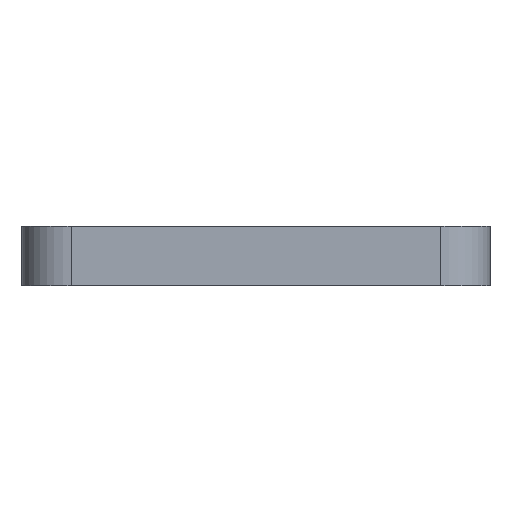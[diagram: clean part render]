
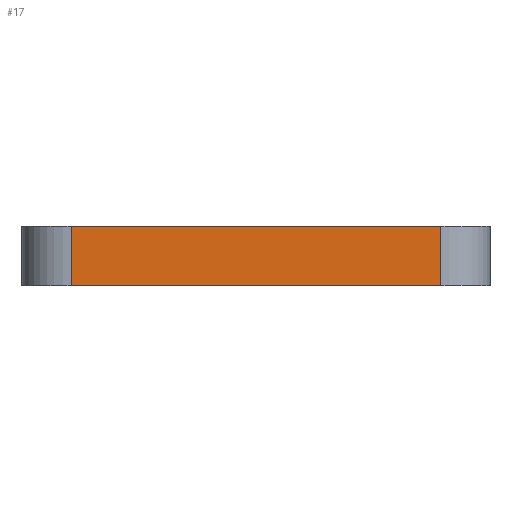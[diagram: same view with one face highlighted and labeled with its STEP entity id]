
A CAD part, left-side view. The second image highlights one B-rep face of the part: STEP entity #17.
In plain terms, the highlighted planar face has unit normal (-1, 0, 0).
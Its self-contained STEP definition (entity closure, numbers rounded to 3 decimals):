
#17 = ADVANCED_FACE('',(#18),#32,.F.);
#18 = FACE_BOUND('',#19,.F.);
#19 = EDGE_LOOP('',(#20,#55,#83,#111));
#20 = ORIENTED_EDGE('',*,*,#21,.F.);
#21 = EDGE_CURVE('',#22,#24,#26,.T.);
#22 = VERTEX_POINT('',#23);
#23 = CARTESIAN_POINT('',(-23.,-7.5,2.4));
#24 = VERTEX_POINT('',#25);
#25 = CARTESIAN_POINT('',(-23.,7.5,2.4));
#26 = SURFACE_CURVE('',#27,(#31,#43),.PCURVE_S1.);
#27 = LINE('',#28,#29);
#28 = CARTESIAN_POINT('',(-23.,-9.5,2.4));
#29 = VECTOR('',#30,1.);
#30 = DIRECTION('',(0.,1.,0.));
#31 = PCURVE('',#32,#37);
#32 = PLANE('',#33);
#33 = AXIS2_PLACEMENT_3D('',#34,#35,#36);
#34 = CARTESIAN_POINT('',(-23.,-9.5,0.));
#35 = DIRECTION('',(1.,0.,0.));
#36 = DIRECTION('',(0.,0.,1.));
#37 = DEFINITIONAL_REPRESENTATION('',(#38),#42);
#38 = LINE('',#39,#40);
#39 = CARTESIAN_POINT('',(2.4,0.));
#40 = VECTOR('',#41,1.);
#41 = DIRECTION('',(0.,-1.));
#42 = ( GEOMETRIC_REPRESENTATION_CONTEXT(2) 
PARAMETRIC_REPRESENTATION_CONTEXT() REPRESENTATION_CONTEXT('2D SPACE',''
  ) );
#43 = PCURVE('',#44,#49);
#44 = PLANE('',#45);
#45 = AXIS2_PLACEMENT_3D('',#46,#47,#48);
#46 = CARTESIAN_POINT('',(-23.,-9.5,2.4));
#47 = DIRECTION('',(0.,0.,1.));
#48 = DIRECTION('',(1.,0.,0.));
#49 = DEFINITIONAL_REPRESENTATION('',(#50),#54);
#50 = LINE('',#51,#52);
#51 = CARTESIAN_POINT('',(0.,0.));
#52 = VECTOR('',#53,1.);
#53 = DIRECTION('',(0.,1.));
#54 = ( GEOMETRIC_REPRESENTATION_CONTEXT(2) 
PARAMETRIC_REPRESENTATION_CONTEXT() REPRESENTATION_CONTEXT('2D SPACE',''
  ) );
#55 = ORIENTED_EDGE('',*,*,#56,.F.);
#56 = EDGE_CURVE('',#57,#22,#59,.T.);
#57 = VERTEX_POINT('',#58);
#58 = CARTESIAN_POINT('',(-23.,-7.5,0.));
#59 = SURFACE_CURVE('',#60,(#64,#71),.PCURVE_S1.);
#60 = LINE('',#61,#62);
#61 = CARTESIAN_POINT('',(-23.,-7.5,0.));
#62 = VECTOR('',#63,1.);
#63 = DIRECTION('',(0.,0.,1.));
#64 = PCURVE('',#32,#65);
#65 = DEFINITIONAL_REPRESENTATION('',(#66),#70);
#66 = LINE('',#67,#68);
#67 = CARTESIAN_POINT('',(0.,-2.));
#68 = VECTOR('',#69,1.);
#69 = DIRECTION('',(1.,0.));
#70 = ( GEOMETRIC_REPRESENTATION_CONTEXT(2) 
PARAMETRIC_REPRESENTATION_CONTEXT() REPRESENTATION_CONTEXT('2D SPACE',''
  ) );
#71 = PCURVE('',#72,#77);
#72 = CYLINDRICAL_SURFACE('',#73,2.);
#73 = AXIS2_PLACEMENT_3D('',#74,#75,#76);
#74 = CARTESIAN_POINT('',(-21.,-7.5,0.));
#75 = DIRECTION('',(0.,0.,1.));
#76 = DIRECTION('',(-1.,-0.,0.));
#77 = DEFINITIONAL_REPRESENTATION('',(#78),#82);
#78 = LINE('',#79,#80);
#79 = CARTESIAN_POINT('',(0.,0.));
#80 = VECTOR('',#81,1.);
#81 = DIRECTION('',(0.,1.));
#82 = ( GEOMETRIC_REPRESENTATION_CONTEXT(2) 
PARAMETRIC_REPRESENTATION_CONTEXT() REPRESENTATION_CONTEXT('2D SPACE',''
  ) );
#83 = ORIENTED_EDGE('',*,*,#84,.T.);
#84 = EDGE_CURVE('',#57,#85,#87,.T.);
#85 = VERTEX_POINT('',#86);
#86 = CARTESIAN_POINT('',(-23.,7.5,0.));
#87 = SURFACE_CURVE('',#88,(#92,#99),.PCURVE_S1.);
#88 = LINE('',#89,#90);
#89 = CARTESIAN_POINT('',(-23.,-9.5,0.));
#90 = VECTOR('',#91,1.);
#91 = DIRECTION('',(0.,1.,0.));
#92 = PCURVE('',#32,#93);
#93 = DEFINITIONAL_REPRESENTATION('',(#94),#98);
#94 = LINE('',#95,#96);
#95 = CARTESIAN_POINT('',(0.,0.));
#96 = VECTOR('',#97,1.);
#97 = DIRECTION('',(0.,-1.));
#98 = ( GEOMETRIC_REPRESENTATION_CONTEXT(2) 
PARAMETRIC_REPRESENTATION_CONTEXT() REPRESENTATION_CONTEXT('2D SPACE',''
  ) );
#99 = PCURVE('',#100,#105);
#100 = PLANE('',#101);
#101 = AXIS2_PLACEMENT_3D('',#102,#103,#104);
#102 = CARTESIAN_POINT('',(-23.,-9.5,0.));
#103 = DIRECTION('',(0.,0.,1.));
#104 = DIRECTION('',(1.,0.,0.));
#105 = DEFINITIONAL_REPRESENTATION('',(#106),#110);
#106 = LINE('',#107,#108);
#107 = CARTESIAN_POINT('',(0.,0.));
#108 = VECTOR('',#109,1.);
#109 = DIRECTION('',(0.,1.));
#110 = ( GEOMETRIC_REPRESENTATION_CONTEXT(2) 
PARAMETRIC_REPRESENTATION_CONTEXT() REPRESENTATION_CONTEXT('2D SPACE',''
  ) );
#111 = ORIENTED_EDGE('',*,*,#112,.T.);
#112 = EDGE_CURVE('',#85,#24,#113,.T.);
#113 = SURFACE_CURVE('',#114,(#118,#125),.PCURVE_S1.);
#114 = LINE('',#115,#116);
#115 = CARTESIAN_POINT('',(-23.,7.5,0.));
#116 = VECTOR('',#117,1.);
#117 = DIRECTION('',(0.,0.,1.));
#118 = PCURVE('',#32,#119);
#119 = DEFINITIONAL_REPRESENTATION('',(#120),#124);
#120 = LINE('',#121,#122);
#121 = CARTESIAN_POINT('',(0.,-17.));
#122 = VECTOR('',#123,1.);
#123 = DIRECTION('',(1.,0.));
#124 = ( GEOMETRIC_REPRESENTATION_CONTEXT(2) 
PARAMETRIC_REPRESENTATION_CONTEXT() REPRESENTATION_CONTEXT('2D SPACE',''
  ) );
#125 = PCURVE('',#126,#131);
#126 = CYLINDRICAL_SURFACE('',#127,2.);
#127 = AXIS2_PLACEMENT_3D('',#128,#129,#130);
#128 = CARTESIAN_POINT('',(-21.,7.5,0.));
#129 = DIRECTION('',(0.,0.,1.));
#130 = DIRECTION('',(-1.,-0.,0.));
#131 = DEFINITIONAL_REPRESENTATION('',(#132),#136);
#132 = LINE('',#133,#134);
#133 = CARTESIAN_POINT('',(-0.,0.));
#134 = VECTOR('',#135,1.);
#135 = DIRECTION('',(-0.,1.));
#136 = ( GEOMETRIC_REPRESENTATION_CONTEXT(2) 
PARAMETRIC_REPRESENTATION_CONTEXT() REPRESENTATION_CONTEXT('2D SPACE',''
  ) );
